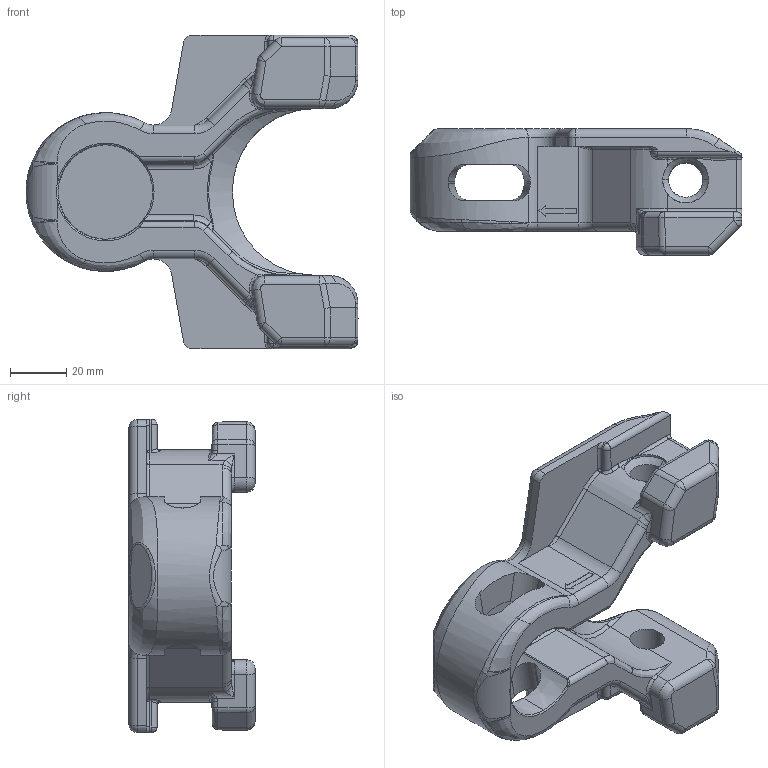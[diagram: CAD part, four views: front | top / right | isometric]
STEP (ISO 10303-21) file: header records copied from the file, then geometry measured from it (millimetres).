
FILE_DESCRIPTION((''),'2;1');
FILE_NAME('P0035','2025-11-05T07:10:34',('joakim.vodder'),(''),'CREO PARAMETRIC BY PTC INC, 2025070','CREO PARAMETRIC BY PTC INC, 2025070','');
FILE_SCHEMA(('AUTOMOTIVE_DESIGN { 1 0 10303 214 1 1 1 1 }'));
Length unit declared in the file: millimetre
Products named in the file (1): P0035
Bounding box: 118.43 x 45 x 111.89 mm (x, y, z)
Volume: 148208.6 mm3; surface area: 36260.4 mm2
Topology: 1 solids, 1 shells, 322 faces, 799 edges, 462 vertices
Faces by surface type: bspline 106, cylinder 104, plane 73, torus 16, sphere 15, cone 8
Entity records: 19997 total; most frequent: CARTESIAN_POINT 11111, ORIENTED_EDGE 1574, DIRECTION 1150, EDGE_CURVE 787, VERTEX_POINT 462, AXIS2_PLACEMENT_3D 441, EDGE_LOOP 325, FACE_OUTER_BOUND 322
